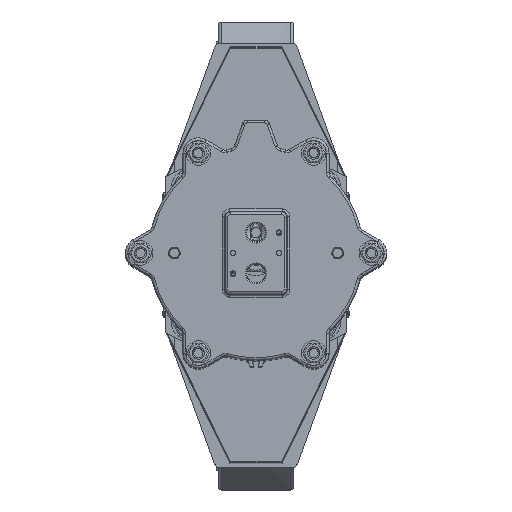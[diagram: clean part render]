
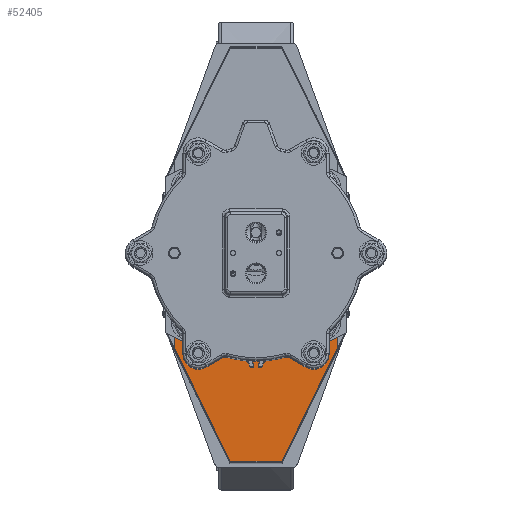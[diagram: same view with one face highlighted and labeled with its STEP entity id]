
A CAD part, top view. The second image highlights one B-rep face of the part: STEP entity #52405.
In plain terms, the highlighted planar face has unit normal (0, 0, 1).
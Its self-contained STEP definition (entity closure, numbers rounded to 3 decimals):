
#3194=PLANE('',#56111);
#4458=FACE_OUTER_BOUND('',#7876,.T.);
#7876=EDGE_LOOP('',(#37294,#37295,#37296,#37297,#37298,#37299,#37300,#37301));
#16189=LINE('',#81353,#19395);
#16191=LINE('',#81356,#19397);
#16192=LINE('',#81359,#19398);
#16213=LINE('',#81410,#19419);
#16214=LINE('',#81412,#19420);
#16215=LINE('',#81414,#19421);
#16216=LINE('',#81416,#19422);
#16217=LINE('',#81417,#19423);
#19395=VECTOR('',#64262,10.);
#19397=VECTOR('',#64266,10.);
#19398=VECTOR('',#64269,10.);
#19419=VECTOR('',#64328,10.);
#19420=VECTOR('',#64329,10.);
#19421=VECTOR('',#64330,10.);
#19422=VECTOR('',#64331,10.);
#19423=VECTOR('',#64332,10.);
#22715=VERTEX_POINT('',#81308);
#22731=VERTEX_POINT('',#81350);
#22732=VERTEX_POINT('',#81352);
#22733=VERTEX_POINT('',#81358);
#22744=VERTEX_POINT('',#81409);
#22745=VERTEX_POINT('',#81411);
#22746=VERTEX_POINT('',#81413);
#22747=VERTEX_POINT('',#81415);
#28140=EDGE_CURVE('',#22732,#22731,#16189,.T.);
#28142=EDGE_CURVE('',#22731,#22715,#16191,.T.);
#28143=EDGE_CURVE('',#22733,#22732,#16192,.T.);
#28169=EDGE_CURVE('',#22715,#22744,#16213,.T.);
#28170=EDGE_CURVE('',#22744,#22745,#16214,.T.);
#28171=EDGE_CURVE('',#22746,#22745,#16215,.T.);
#28172=EDGE_CURVE('',#22747,#22746,#16216,.T.);
#28173=EDGE_CURVE('',#22733,#22747,#16217,.T.);
#37294=ORIENTED_EDGE('',*,*,#28142,.T.);
#37295=ORIENTED_EDGE('',*,*,#28169,.T.);
#37296=ORIENTED_EDGE('',*,*,#28170,.T.);
#37297=ORIENTED_EDGE('',*,*,#28171,.F.);
#37298=ORIENTED_EDGE('',*,*,#28172,.F.);
#37299=ORIENTED_EDGE('',*,*,#28173,.F.);
#37300=ORIENTED_EDGE('',*,*,#28143,.T.);
#37301=ORIENTED_EDGE('',*,*,#28140,.T.);
#52405=ADVANCED_FACE('',(#4458),#3194,.T.);
#56111=AXIS2_PLACEMENT_3D('',#81408,#64326,#64327);
#64262=DIRECTION('',(0.442,-0.897,0.));
#64266=DIRECTION('',(1.,0.,0.));
#64269=DIRECTION('',(0.,-1.,0.));
#64326=DIRECTION('center_axis',(0.,0.,
1.));
#64327=DIRECTION('ref_axis',(1.,0.,0.));
#64328=DIRECTION('',(1.,0.,0.));
#64329=DIRECTION('',(1.,0.,0.));
#64330=DIRECTION('',(-0.442,-0.897,0.));
#64331=DIRECTION('',(0.,-1.,0.));
#64332=DIRECTION('',(1.,0.,0.));
#81308=CARTESIAN_POINT('',(-24.564,-202.365,819.7));
#81350=CARTESIAN_POINT('',(-25.234,-202.365,819.7));
#81352=CARTESIAN_POINT('',(-80.,-91.065,819.7));
#81353=CARTESIAN_POINT('',(-24.889,-203.065,819.7));
#81356=CARTESIAN_POINT('',(2.724,-202.365,819.7));
#81358=CARTESIAN_POINT('',(-80.,-81.065,819.7));
#81359=CARTESIAN_POINT('',(-80.,-91.065,819.7));
#81408=CARTESIAN_POINT('Origin',(30.013,-132.948,819.7));
#81409=CARTESIAN_POINT('',(24.564,-202.365,819.7));
#81410=CARTESIAN_POINT('',(2.724,-202.365,819.7));
#81411=CARTESIAN_POINT('',(25.234,-202.365,819.7));
#81412=CARTESIAN_POINT('',(27.289,-202.365,819.7));
#81413=CARTESIAN_POINT('',(80.,-91.065,819.7));
#81414=CARTESIAN_POINT('',(24.889,-203.065,819.7));
#81415=CARTESIAN_POINT('',(80.,-81.065,819.7));
#81416=CARTESIAN_POINT('',(80.,-91.065,819.7));
#81417=CARTESIAN_POINT('',(80.,-81.065,819.7));
